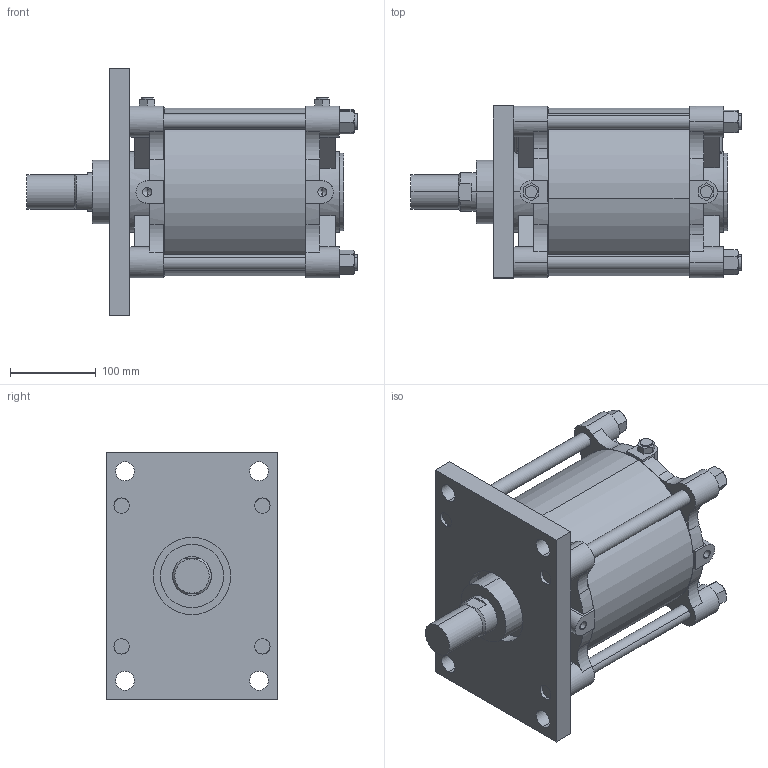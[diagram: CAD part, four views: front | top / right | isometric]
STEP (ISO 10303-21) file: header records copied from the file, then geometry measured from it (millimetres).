
FILE_DESCRIPTION (( 'STEP AP203' ), '1' );
FILE_NAME ('A##2-180#-100-A.STEP', '2016-03-31T06:57:28', ( '' ), ( '' ), 'SwSTEP 2.0', 'SolidWorks 2014', '' );
FILE_SCHEMA (( 'CONFIG_CONTROL_DESIGN' ));
Length unit declared in the file: millimetre
Products named in the file (7): A180-100; A180-A; A180-AB; A180-B; A##2-180#-100-A
Assembly tree (12 placements, depth 2):
  A##2-180#-100-A
    A180-B
    A180-100
    A180-A
    (unnamed)  x4
    (unnamed)  x4
    A180-AB
Bounding box: 384.5 x 200 x 288 mm (x, y, z)
Volume: 8648569.3 mm3; surface area: 657539.8 mm2
Topology: 12 solids, 14 shells, 344 faces, 888 edges, 572 vertices
Faces by surface type: plane 172, cylinder 134, torus 24, cone 14
Entity records: 10337 total; most frequent: CARTESIAN_POINT 2057, DIRECTION 1640, ORIENTED_EDGE 1500, EDGE_CURVE 750, AXIS2_PLACEMENT_3D 627, VERTEX_POINT 494, LINE 386, VECTOR 386
